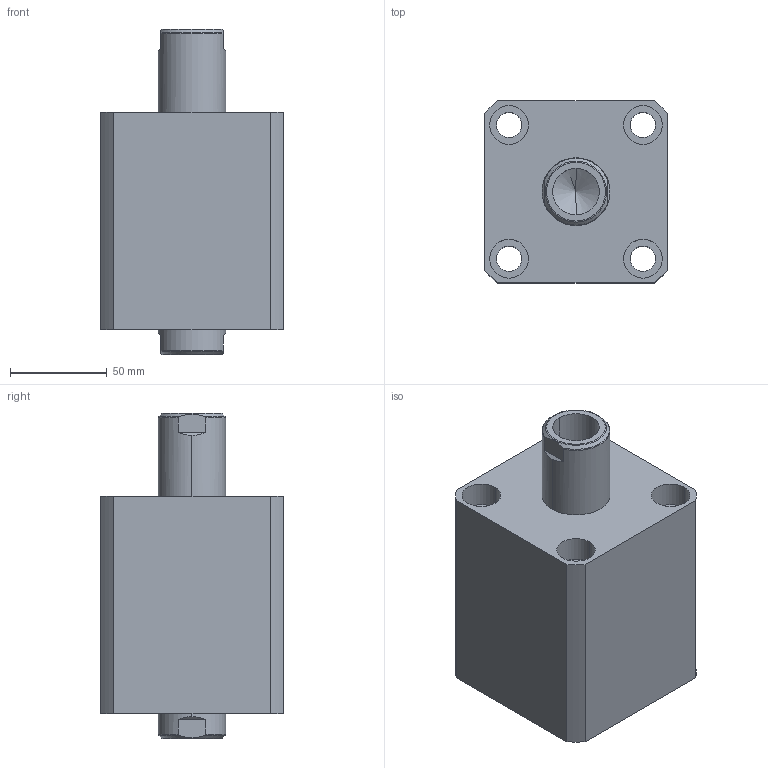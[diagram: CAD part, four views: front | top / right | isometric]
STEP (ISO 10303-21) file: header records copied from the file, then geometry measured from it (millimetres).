
FILE_DESCRIPTION (( 'STEP AP214' ), '1' );
FILE_NAME ('chtb-sw63x30n_asm.STEP', '2018-05-12T01:52:30', ( 'Windows' ), ( 'Microsoft' ), 'SwSTEP 2.0', 'SolidWorks 2015', '' );
FILE_SCHEMA (( 'AUTOMOTIVE_DESIGN' ));
Length unit declared in the file: millimetre
Products named in the file (4): CHTB-63QG; chtb-sw63x30n_asm; CHTB-SW63X30NHSG; CHTB-SW63X30NBT
Assembly tree (3 placements, depth 2):
  chtb-sw63x30n_asm
    CHTB-63QG
    CHTB-SW63X30NBT
    CHTB-SW63X30NHSG
Bounding box: 94 x 94 x 168 mm (x, y, z)
Volume: 865345.9 mm3; surface area: 147320.7 mm2
Topology: 3 solids, 3 shells, 184 faces, 515 edges, 349 vertices
Faces by surface type: cylinder 106, plane 38, cone 16, bspline 12, torus 12
Entity records: 18385 total; most frequent: CARTESIAN_POINT 13775, ORIENTED_EDGE 1014, DIRECTION 814, EDGE_CURVE 507, VERTEX_POINT 349, AXIS2_PLACEMENT_3D 331, EDGE_LOOP 220, FACE_OUTER_BOUND 184
